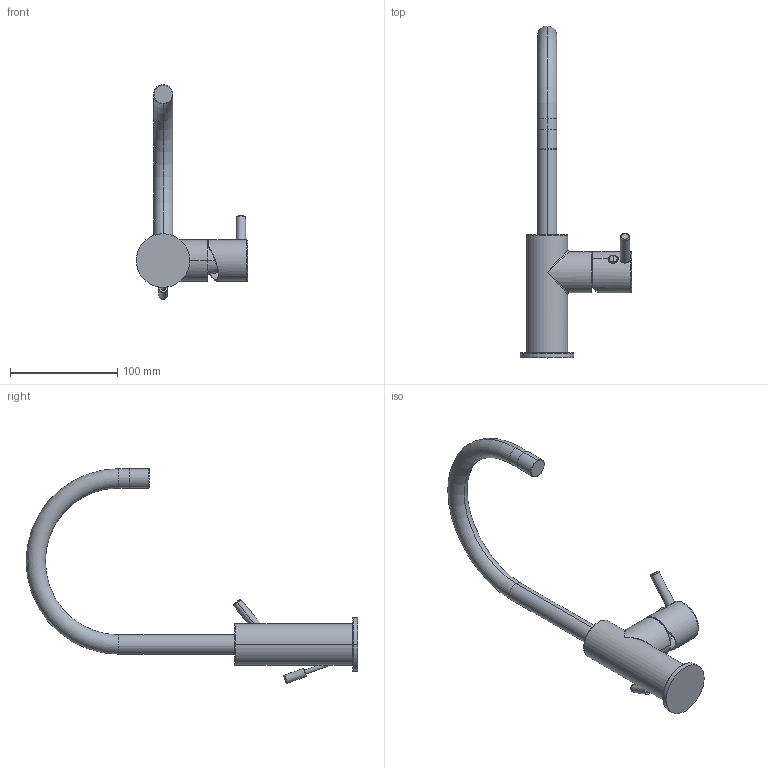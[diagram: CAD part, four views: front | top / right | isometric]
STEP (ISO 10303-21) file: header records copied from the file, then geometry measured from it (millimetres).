
FILE_DESCRIPTION((''),'2;1');
FILE_NAME('12051_SW0001','2025-02-26T10:10:58',('carloff'),(''),'CREO PARAMETRIC BY PTC INC, 2022014','CREO PARAMETRIC BY PTC INC, 2022014','');
FILE_SCHEMA(('CONFIG_CONTROL_DESIGN'));
Length unit declared in the file: millimetre
Products named in the file (1): 12051_SW0001
Bounding box: 103.8 x 309.5 x 200.16 mm (x, y, z)
Volume: 284039.1 mm3; surface area: 57931.2 mm2
Topology: 1 solids, 1 shells, 229 faces, 562 edges, 335 vertices
Faces by surface type: plane 77, cylinder 72, torus 28, cone 27, bspline 21, sphere 4
Entity records: 10646 total; most frequent: CARTESIAN_POINT 5432, ORIENTED_EDGE 1096, DIRECTION 1060, EDGE_CURVE 548, AXIS2_PLACEMENT_3D 415, VERTEX_POINT 335, EDGE_LOOP 245, VECTOR 230
